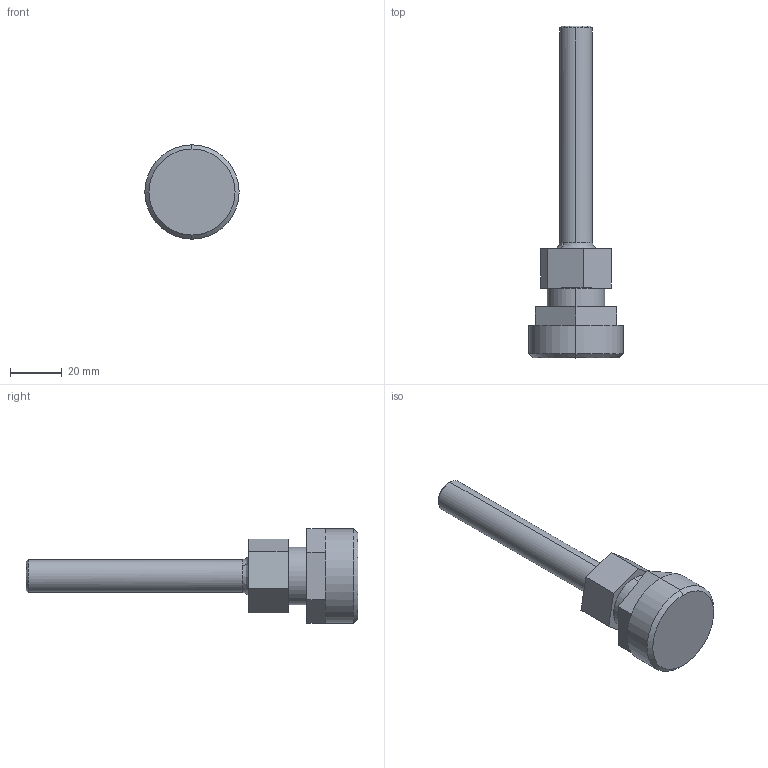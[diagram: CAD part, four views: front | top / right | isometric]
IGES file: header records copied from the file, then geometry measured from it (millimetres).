
Start section: SolidWorks IGES file using analytic representation for surfaces
Global section: file name: S:\Product Visuals\REVISED-30L-TOP-MOUNT-FITTINGS\IGS\top-straight-outlet-only\tubeout\08-tube-out-with-top-mount-adapter.IGS; native system: SolidWorks 2012; preprocessor: SolidWorks 2012; author: Rachel.Dressel; date: 121128.081829; units: inch
Bounding box: 36.6 x 128.85 x 36.66 mm (x, y, z)
Volume: 41680.7 mm3; surface area: 9803.7 mm2
Topology: 1 solids, 1 shells, 41 faces, 92 edges, 56 vertices
Faces by surface type: plane 29, revolution 10, bspline 2
